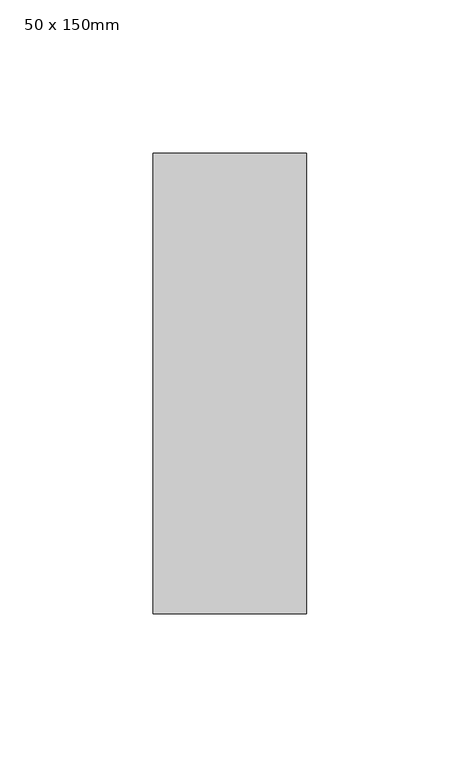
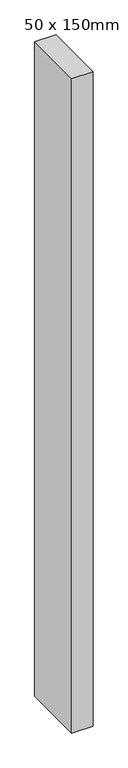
"""IFC4 building model written with IfcOpenShell, lengths in millimetres: member geometry, 矩形竖梃 : 50 x 150mm."""

from ifc_helpers import new_model, si_unit, frame, origin, place, context, project, spatial, polyline, outline, extrude, source, transform, mapped, element, save


def member_50_x_150mm_b7028314(model_context):
    return source(origin(), model_context, "Body", "SweptSolid", [
        extrude(outline(polyline([(0.0, 75.0), (0.0, -75.0), (-50.0, -75.0), (-50.0, 75.0), (0.0, 75.0)])), frame((0.0, 0.0, -1616.6666667), z_axis=(0.0, 0.0, 1.0), x_axis=(1.0, 0.0, 0.0)), (0.0, 0.0, 1.0), 1616.6666667),
    ])


if __name__ == "__main__":
    model = new_model("IFC4")
    model_context = context("Model", 3, world=origin())
    ifc_project = project(units=[si_unit("LENGTHUNIT", "METRE", prefix="MILLI")], contexts=[model_context])
    site = spatial("IfcSite", under=ifc_project)
    building = spatial("IfcBuilding", under=site)
    placement = place(None, origin())
    member_50_x_150mm_shape = member_50_x_150mm_b7028314(model_context)
    element("IfcMember", 1, ObjectType="矩形竖梃 : 50 x 150mm", at=placement, inside=building, context=model_context, shape_type="MappedRepresentation", body=[
        mapped(member_50_x_150mm_shape, transform((0.0, 0.0, 0.0), x_axis=(1.0, 0.0, 0.0), y_axis=(0.0, 1.0, 0.0), z_axis=(0.0, 0.0, 1.0))),
    ])
    save(model, "model.ifc")
